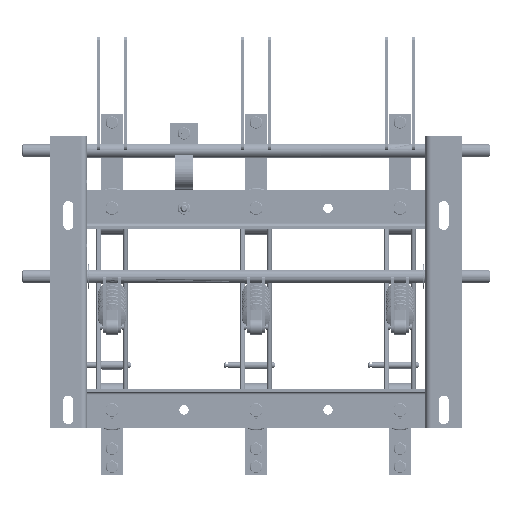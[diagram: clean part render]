
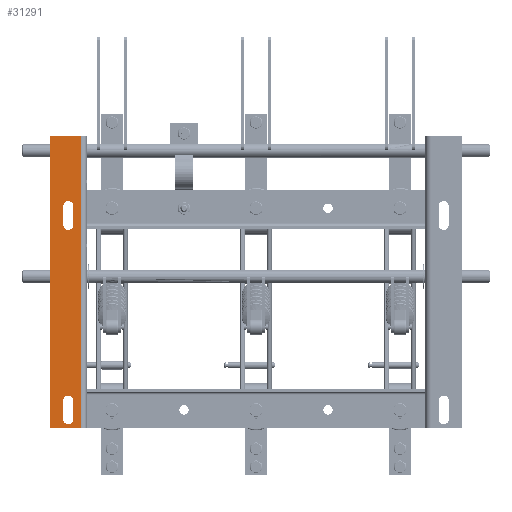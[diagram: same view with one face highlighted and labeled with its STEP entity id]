
A CAD part, front view. The second image highlights one B-rep face of the part: STEP entity #31291.
In plain terms, the highlighted planar face has unit normal (0, -1, 0).
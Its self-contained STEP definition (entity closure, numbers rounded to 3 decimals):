
#358 = VECTOR ( 'NONE', #20421, 1000. ) ;
#529 = EDGE_LOOP ( 'NONE', ( #105083, #53094, #79482, #88626 ) ) ;
#2029 = CARTESIAN_POINT ( 'NONE',  ( -253.707, -0.004, -121.998 ) ) ;
#2357 = EDGE_CURVE ( 'NONE', #103636, #58888, #16357, .T. ) ;
#3896 = CARTESIAN_POINT ( 'NONE',  ( -267.707, -0.004, -147.998 ) ) ;
#4657 = ORIENTED_EDGE ( 'NONE', *, *, #103180, .T. ) ;
#5116 = CARTESIAN_POINT ( 'NONE',  ( -260.707, -0.004, 122.002 ) ) ;
#7484 = CIRCLE ( 'NONE', #26675, 7. ) ;
#7818 = CARTESIAN_POINT ( 'NONE',  ( -253.707, -0.004, -121.998 ) ) ;
#7840 = ORIENTED_EDGE ( 'NONE', *, *, #51073, .T. ) ;
#8937 = AXIS2_PLACEMENT_3D ( 'NONE', #62703, #12562, #71092 ) ;
#9752 = CARTESIAN_POINT ( 'NONE',  ( -253.707, -0.004, 148.002 ) ) ;
#9865 = VERTEX_POINT ( 'NONE', #45699 ) ;
#11285 = LINE ( 'NONE', #9752, #97664 ) ;
#12562 = DIRECTION ( 'NONE',  ( 0., 1., 0. ) ) ;
#12785 = EDGE_LOOP ( 'NONE', ( #84974, #4657, #7840, #105205 ) ) ;
#13487 = LINE ( 'NONE', #2029, #33127 ) ;
#13508 = DIRECTION ( 'NONE',  ( 1., 0., 0. ) ) ;
#13623 = AXIS2_PLACEMENT_3D ( 'NONE', #40899, #99458, #49307 ) ;
#14949 = AXIS2_PLACEMENT_3D ( 'NONE', #5116, #63654, #13508 ) ;
#16357 = CIRCLE ( 'NONE', #13623, 7. ) ;
#16772 = VERTEX_POINT ( 'NONE', #30469 ) ;
#17702 = ORIENTED_EDGE ( 'NONE', *, *, #92114, .F. ) ;
#18098 = CARTESIAN_POINT ( 'NONE',  ( -267.707, -0.004, -121.998 ) ) ;
#20421 = DIRECTION ( 'NONE',  ( 0., 0., 1. ) ) ;
#21435 = VERTEX_POINT ( 'NONE', #95754 ) ;
#23737 = CARTESIAN_POINT ( 'NONE',  ( -253.707, -0.004, 122.002 ) ) ;
#26675 = AXIS2_PLACEMENT_3D ( 'NONE', #31130, #89635, #39584 ) ;
#30469 = CARTESIAN_POINT ( 'NONE',  ( -267.707, -0.004, 122.002 ) ) ;
#31130 = CARTESIAN_POINT ( 'NONE',  ( -260.707, -0.004, 148.002 ) ) ;
#31277 = CARTESIAN_POINT ( 'NONE',  ( -286.207, -0.004, 47.502 ) ) ;
#31291 = ADVANCED_FACE ( 'NONE', ( #97156, #94541, #50022 ), #64258, .F. ) ;
#33127 = VECTOR ( 'NONE', #86830, 1000. ) ;
#34994 = DIRECTION ( 'NONE',  ( 0., 0., -1. ) ) ;
#35927 = CARTESIAN_POINT ( 'NONE',  ( -243.004, -0.004, 245.002 ) ) ;
#35960 = DIRECTION ( 'NONE',  ( -1., 0., 0. ) ) ;
#36858 = DIRECTION ( 'NONE',  ( 0., 0., 1. ) ) ;
#39584 = DIRECTION ( 'NONE',  ( -1., 0., 0. ) ) ;
#40899 = CARTESIAN_POINT ( 'NONE',  ( -260.707, -0.004, -121.998 ) ) ;
#41347 = AXIS2_PLACEMENT_3D ( 'NONE', #31277, #98249, #48135 ) ;
#45699 = CARTESIAN_POINT ( 'NONE',  ( -267.707, -0.004, -147.998 ) ) ;
#48135 = DIRECTION ( 'NONE',  ( 1., 0., 0. ) ) ;
#49307 = DIRECTION ( 'NONE',  ( -1., 0., 0. ) ) ;
#50022 = FACE_BOUND ( 'NONE', #12785, .T. ) ;
#50775 = VERTEX_POINT ( 'NONE', #67876 ) ;
#51073 = EDGE_CURVE ( 'NONE', #21435, #104721, #7484, .T. ) ;
#51814 = CARTESIAN_POINT ( 'NONE',  ( -286.207, -0.004, -159.998 ) ) ;
#53094 = ORIENTED_EDGE ( 'NONE', *, *, #81763, .T. ) ;
#55317 = VERTEX_POINT ( 'NONE', #23737 ) ;
#56214 = CARTESIAN_POINT ( 'NONE',  ( -286.207, -0.004, 245.002 ) ) ;
#57812 = CARTESIAN_POINT ( 'NONE',  ( -286.207, -0.004, -159.998 ) ) ;
#58888 = VERTEX_POINT ( 'NONE', #7818 ) ;
#62247 = VERTEX_POINT ( 'NONE', #51814 ) ;
#62703 = CARTESIAN_POINT ( 'NONE',  ( -260.707, -0.004, -147.998 ) ) ;
#63127 = VERTEX_POINT ( 'NONE', #35927 ) ;
#63348 = VECTOR ( 'NONE', #89806, 1000. ) ;
#63654 = DIRECTION ( 'NONE',  ( 0., 1., 0. ) ) ;
#64258 = PLANE ( 'NONE',  #41347 ) ;
#64494 = LINE ( 'NONE', #70546, #358 ) ;
#64719 = VECTOR ( 'NONE', #107909, 1000. ) ;
#65133 = CIRCLE ( 'NONE', #8937, 7. ) ;
#66102 = VECTOR ( 'NONE', #35960, 1000. ) ;
#66240 = ORIENTED_EDGE ( 'NONE', *, *, #92783, .F. ) ;
#67876 = CARTESIAN_POINT ( 'NONE',  ( -243.004, -0.004, -159.998 ) ) ;
#68088 = EDGE_CURVE ( 'NONE', #50775, #63127, #64494, .T. ) ;
#69110 = EDGE_CURVE ( 'NONE', #104721, #55317, #11285, .T. ) ;
#70166 = CARTESIAN_POINT ( 'NONE',  ( -267.707, -0.004, 122.002 ) ) ;
#70546 = CARTESIAN_POINT ( 'NONE',  ( -243.004, -0.004, -159.998 ) ) ;
#70850 = DIRECTION ( 'NONE',  ( 0., 0., 1. ) ) ;
#71092 = DIRECTION ( 'NONE',  ( 1., 0., 0. ) ) ;
#71312 = LINE ( 'NONE', #86015, #66102 ) ;
#72034 = VECTOR ( 'NONE', #36858, 1000. ) ;
#73717 = EDGE_LOOP ( 'NONE', ( #73825, #66240, #74817, #17702 ) ) ;
#73825 = ORIENTED_EDGE ( 'NONE', *, *, #68088, .T. ) ;
#74817 = ORIENTED_EDGE ( 'NONE', *, *, #92457, .F. ) ;
#79482 = ORIENTED_EDGE ( 'NONE', *, *, #2357, .T. ) ;
#79527 = EDGE_CURVE ( 'NONE', #55317, #16772, #81601, .T. ) ;
#79820 = VERTEX_POINT ( 'NONE', #94175 ) ;
#79862 = EDGE_CURVE ( 'NONE', #58888, #79820, #13487, .T. ) ;
#79911 = LINE ( 'NONE', #3896, #102229 ) ;
#81601 = CIRCLE ( 'NONE', #14949, 7. ) ;
#81763 = EDGE_CURVE ( 'NONE', #9865, #103636, #79911, .T. ) ;
#82093 = EDGE_CURVE ( 'NONE', #79820, #9865, #65133, .T. ) ;
#84974 = ORIENTED_EDGE ( 'NONE', *, *, #79527, .T. ) ;
#85564 = LINE ( 'NONE', #56214, #63348 ) ;
#86015 = CARTESIAN_POINT ( 'NONE',  ( -243.004, -0.004, -159.998 ) ) ;
#86830 = DIRECTION ( 'NONE',  ( 0., 0., -1. ) ) ;
#86928 = LINE ( 'NONE', #57812, #64719 ) ;
#88626 = ORIENTED_EDGE ( 'NONE', *, *, #79862, .T. ) ;
#89635 = DIRECTION ( 'NONE',  ( 0., 1., 0. ) ) ;
#89806 = DIRECTION ( 'NONE',  ( 1., 0., 0. ) ) ;
#92114 = EDGE_CURVE ( 'NONE', #50775, #62247, #71312, .T. ) ;
#92457 = EDGE_CURVE ( 'NONE', #62247, #94442, #86928, .T. ) ;
#92783 = EDGE_CURVE ( 'NONE', #94442, #63127, #85564, .T. ) ;
#93523 = CARTESIAN_POINT ( 'NONE',  ( -286.207, -0.004, 245.002 ) ) ;
#94175 = CARTESIAN_POINT ( 'NONE',  ( -253.707, -0.004, -147.998 ) ) ;
#94289 = LINE ( 'NONE', #70166, #72034 ) ;
#94442 = VERTEX_POINT ( 'NONE', #93523 ) ;
#94541 = FACE_BOUND ( 'NONE', #529, .T. ) ;
#95754 = CARTESIAN_POINT ( 'NONE',  ( -267.707, -0.004, 148.002 ) ) ;
#97156 = FACE_OUTER_BOUND ( 'NONE', #73717, .T. ) ;
#97664 = VECTOR ( 'NONE', #34994, 1000. ) ;
#98249 = DIRECTION ( 'NONE',  ( 0., 1., 0. ) ) ;
#99458 = DIRECTION ( 'NONE',  ( 0., 1., 0. ) ) ;
#101158 = CARTESIAN_POINT ( 'NONE',  ( -253.707, -0.004, 148.002 ) ) ;
#102229 = VECTOR ( 'NONE', #70850, 1000. ) ;
#103180 = EDGE_CURVE ( 'NONE', #16772, #21435, #94289, .T. ) ;
#103636 = VERTEX_POINT ( 'NONE', #18098 ) ;
#104721 = VERTEX_POINT ( 'NONE', #101158 ) ;
#105083 = ORIENTED_EDGE ( 'NONE', *, *, #82093, .T. ) ;
#105205 = ORIENTED_EDGE ( 'NONE', *, *, #69110, .T. ) ;
#107909 = DIRECTION ( 'NONE',  ( 0., 0., 1. ) ) ;
